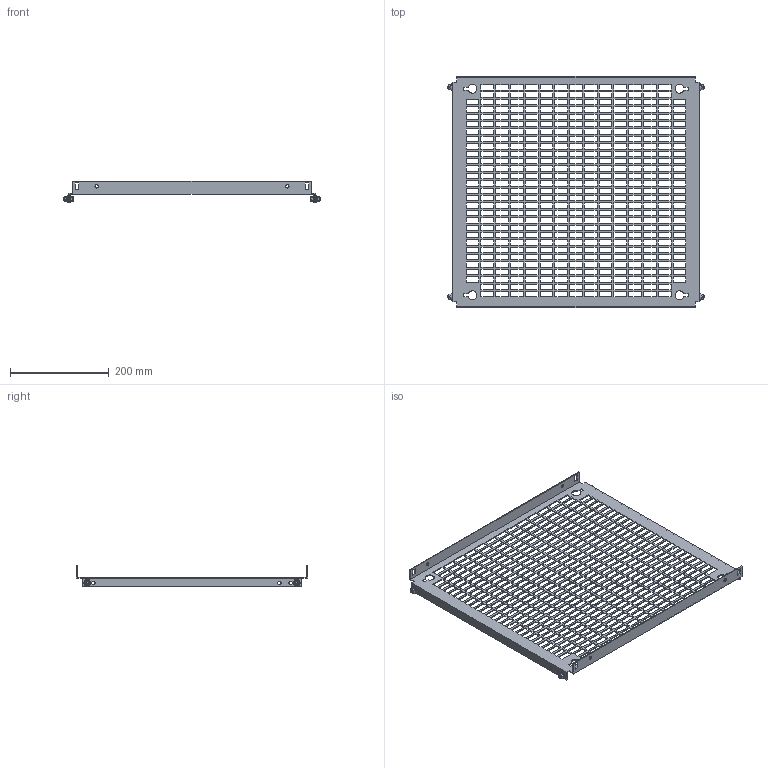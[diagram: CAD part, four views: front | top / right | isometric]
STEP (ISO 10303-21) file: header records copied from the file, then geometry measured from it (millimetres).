
FILE_DESCRIPTION(('Open CASCADE Model'),'2;1');
FILE_NAME('Open CASCADE Shape Model','2025-02-19T16:49:03',('Author'),( 'Open CASCADE'),'Open CASCADE STEP processor 7.8','Open CASCADE 7.8' ,'Unknown');
FILE_SCHEMA(('AUTOMOTIVE_DESIGN { 1 0 10303 214 1 1 1 1 }'));
Length unit declared in the file: millimetre
Products named in the file (4): Compound1; Solid1; Solid2; Solid3
Assembly tree (9 placements, depth 2):
  Compound1
    Solid1
    Solid2  x4
    Solid3  x4
Bounding box: 520 x 469 x 43 mm (x, y, z)
Volume: 302256.3 mm3; surface area: 370383.8 mm2
Topology: 9 solids, 9 shells, 2000 faces, 5829 edges, 3851 vertices
Faces by surface type: plane 1842, cone 68, bspline 48, cylinder 30, torus 12
Full cylindrical faces by diameter (mm): 5 x4, 6 x8, 7 x14
Entity records: 62862 total; most frequent: CARTESIAN_POINT 11591, ORIENTED_EDGE 10980, DIRECTION 9162, EDGE_CURVE 5490, LINE 5332, VECTOR 5332, VERTEX_POINT 3653, FACE_BOUND 2745
